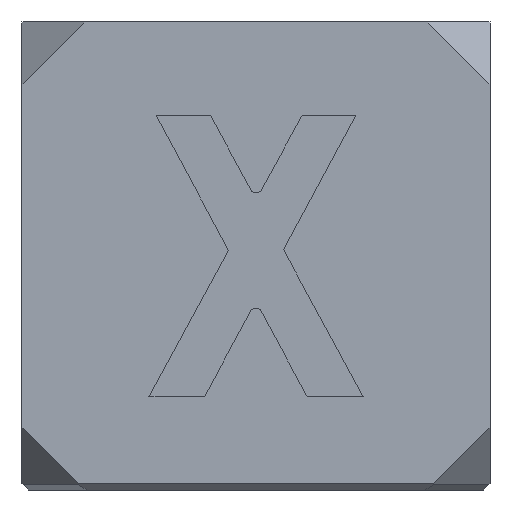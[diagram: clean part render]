
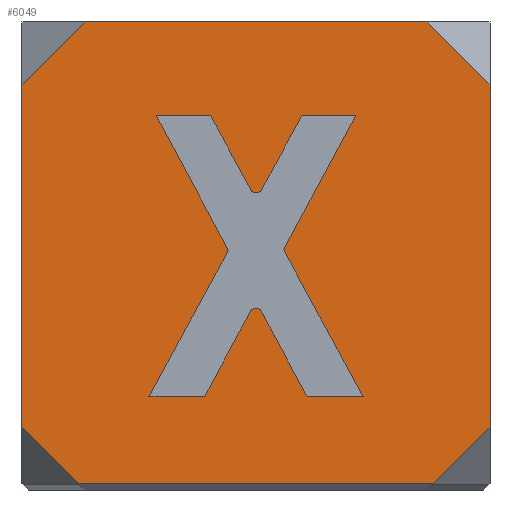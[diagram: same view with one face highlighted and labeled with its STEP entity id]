
A CAD part, front view. The second image highlights one B-rep face of the part: STEP entity #6049.
In plain terms, the highlighted planar face has unit normal (0, -1, 0).
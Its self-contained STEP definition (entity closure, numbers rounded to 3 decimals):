
#218=FACE_BOUND('',#1060,.T.);
#376=PLANE('',#6274);
#705=FACE_OUTER_BOUND('',#1059,.T.);
#1059=EDGE_LOOP('',(#5559,#5560,#5561,#5562,#5563,#5564,#5565,#5566));
#1060=EDGE_LOOP('',(#5567,#5568,#5569,#5570,#5571,#5572,#5573,#5574,#5575,
#5576,#5577,#5578,#5579,#5580));
#1123=CIRCLE('',#6271,0.4);
#1125=CIRCLE('',#6275,0.4);
#1739=LINE('',#12042,#2231);
#1814=LINE('',#13329,#2306);
#1850=LINE('',#13409,#2342);
#1880=LINE('',#13474,#2372);
#1883=LINE('',#13481,#2375);
#1884=LINE('',#13482,#2376);
#1885=LINE('',#13483,#2377);
#1886=LINE('',#13484,#2378);
#1887=LINE('',#13485,#2379);
#1888=LINE('',#13487,#2380);
#1889=LINE('',#13489,#2381);
#1890=LINE('',#13491,#2382);
#1891=LINE('',#13493,#2383);
#1892=LINE('',#13495,#2384);
#1893=LINE('',#13497,#2385);
#1894=LINE('',#13501,#2386);
#1895=LINE('',#13503,#2387);
#1896=LINE('',#13505,#2388);
#1897=LINE('',#13507,#2389);
#1898=LINE('',#13508,#2390);
#2231=VECTOR('',#6782,10.);
#2306=VECTOR('',#6941,10.);
#2342=VECTOR('',#7011,10.);
#2372=VECTOR('',#7069,10.);
#2375=VECTOR('',#7074,10.);
#2376=VECTOR('',#7075,10.);
#2377=VECTOR('',#7076,10.);
#2378=VECTOR('',#7077,10.);
#2379=VECTOR('',#7078,10.);
#2380=VECTOR('',#7079,10.);
#2381=VECTOR('',#7080,10.);
#2382=VECTOR('',#7081,10.);
#2383=VECTOR('',#7082,10.);
#2384=VECTOR('',#7083,10.);
#2385=VECTOR('',#7084,10.);
#2386=VECTOR('',#7087,10.);
#2387=VECTOR('',#7088,10.);
#2388=VECTOR('',#7089,10.);
#2389=VECTOR('',#7090,10.);
#2390=VECTOR('',#7091,10.);
#2863=VERTEX_POINT('',#12039);
#2864=VERTEX_POINT('',#12041);
#2948=VERTEX_POINT('',#13326);
#2949=VERTEX_POINT('',#13328);
#2975=VERTEX_POINT('',#13406);
#2976=VERTEX_POINT('',#13408);
#2993=VERTEX_POINT('',#13464);
#2994=VERTEX_POINT('',#13465);
#2997=VERTEX_POINT('',#13473);
#2999=VERTEX_POINT('',#13479);
#3000=VERTEX_POINT('',#13480);
#3001=VERTEX_POINT('',#13486);
#3002=VERTEX_POINT('',#13488);
#3003=VERTEX_POINT('',#13490);
#3004=VERTEX_POINT('',#13492);
#3005=VERTEX_POINT('',#13494);
#3006=VERTEX_POINT('',#13496);
#3007=VERTEX_POINT('',#13498);
#3008=VERTEX_POINT('',#13500);
#3009=VERTEX_POINT('',#13502);
#3010=VERTEX_POINT('',#13504);
#3011=VERTEX_POINT('',#13506);
#3661=EDGE_CURVE('',#2863,#2864,#1739,.T.);
#3794=EDGE_CURVE('',#2948,#2949,#1814,.T.);
#3834=EDGE_CURVE('',#2976,#2975,#1850,.T.);
#3862=EDGE_CURVE('',#2993,#2994,#1123,.T.);
#3866=EDGE_CURVE('',#2997,#2994,#1880,.T.);
#3869=EDGE_CURVE('',#2999,#3000,#1883,.T.);
#3870=EDGE_CURVE('',#2976,#2999,#1884,.T.);
#3871=EDGE_CURVE('',#2949,#2975,#1885,.T.);
#3872=EDGE_CURVE('',#2864,#2948,#1886,.T.);
#3873=EDGE_CURVE('',#3000,#2863,#1887,.T.);
#3874=EDGE_CURVE('',#2993,#3001,#1888,.T.);
#3875=EDGE_CURVE('',#3001,#3002,#1889,.T.);
#3876=EDGE_CURVE('',#3002,#3003,#1890,.T.);
#3877=EDGE_CURVE('',#3003,#3004,#1891,.T.);
#3878=EDGE_CURVE('',#3004,#3005,#1892,.T.);
#3879=EDGE_CURVE('',#3005,#3006,#1893,.T.);
#3880=EDGE_CURVE('',#3007,#3006,#1125,.T.);
#3881=EDGE_CURVE('',#3007,#3008,#1894,.T.);
#3882=EDGE_CURVE('',#3008,#3009,#1895,.T.);
#3883=EDGE_CURVE('',#3009,#3010,#1896,.T.);
#3884=EDGE_CURVE('',#3010,#3011,#1897,.T.);
#3885=EDGE_CURVE('',#3011,#2997,#1898,.T.);
#5559=ORIENTED_EDGE('',*,*,#3869,.F.);
#5560=ORIENTED_EDGE('',*,*,#3870,.F.);
#5561=ORIENTED_EDGE('',*,*,#3834,.T.);
#5562=ORIENTED_EDGE('',*,*,#3871,.F.);
#5563=ORIENTED_EDGE('',*,*,#3794,.F.);
#5564=ORIENTED_EDGE('',*,*,#3872,.F.);
#5565=ORIENTED_EDGE('',*,*,#3661,.F.);
#5566=ORIENTED_EDGE('',*,*,#3873,.F.);
#5567=ORIENTED_EDGE('',*,*,#3862,.F.);
#5568=ORIENTED_EDGE('',*,*,#3874,.T.);
#5569=ORIENTED_EDGE('',*,*,#3875,.T.);
#5570=ORIENTED_EDGE('',*,*,#3876,.T.);
#5571=ORIENTED_EDGE('',*,*,#3877,.T.);
#5572=ORIENTED_EDGE('',*,*,#3878,.T.);
#5573=ORIENTED_EDGE('',*,*,#3879,.T.);
#5574=ORIENTED_EDGE('',*,*,#3880,.F.);
#5575=ORIENTED_EDGE('',*,*,#3881,.T.);
#5576=ORIENTED_EDGE('',*,*,#3882,.T.);
#5577=ORIENTED_EDGE('',*,*,#3883,.T.);
#5578=ORIENTED_EDGE('',*,*,#3884,.T.);
#5579=ORIENTED_EDGE('',*,*,#3885,.T.);
#5580=ORIENTED_EDGE('',*,*,#3866,.T.);
#6049=ADVANCED_FACE('',(#705,#218),#376,.T.);
#6271=AXIS2_PLACEMENT_3D('',#13466,#7061,#7062);
#6274=AXIS2_PLACEMENT_3D('',#13478,#7072,#7073);
#6275=AXIS2_PLACEMENT_3D('',#13499,#7085,#7086);
#6782=DIRECTION('',(0.,0.,1.));
#6941=DIRECTION('',(1.,0.,0.));
#7011=DIRECTION('',(0.,0.,1.));
#7061=DIRECTION('center_axis',(0.,1.,0.));
#7062=DIRECTION('ref_axis',(-0.001,0.,-1.));
#7069=DIRECTION('',(0.477,0.,-0.879));
#7072=DIRECTION('center_axis',(0.,-1.,0.));
#7073=DIRECTION('ref_axis',(1.,0.,0.));
#7074=DIRECTION('',(-1.,0.,0.));
#7075=DIRECTION('',(-0.707,0.,-0.707));
#7076=DIRECTION('',(0.707,0.,-0.707));
#7077=DIRECTION('',(0.707,0.,0.707));
#7078=DIRECTION('',(-0.707,0.,0.707));
#7079=DIRECTION('',(0.479,0.,0.878));
#7080=DIRECTION('',(1.,0.,0.));
#7081=DIRECTION('',(-0.474,0.,-0.881));
#7082=DIRECTION('',(0.477,0.,-0.879));
#7083=DIRECTION('',(-1.,0.,0.));
#7084=DIRECTION('',(-0.473,0.,0.881));
#7085=DIRECTION('center_axis',(0.,1.,0.));
#7086=DIRECTION('ref_axis',(0.,0.,1.));
#7087=DIRECTION('',(-0.474,0.,-0.881));
#7088=DIRECTION('',(-1.,0.,0.));
#7089=DIRECTION('',(0.478,0.,0.878));
#7090=DIRECTION('',(-0.473,0.,0.881));
#7091=DIRECTION('',(1.,0.,0.));
#12039=CARTESIAN_POINT('',(-15.,-15.,4.019));
#12041=CARTESIAN_POINT('',(-15.,-15.,25.981));
#12042=CARTESIAN_POINT('',(-15.,-15.,0.));
#13326=CARTESIAN_POINT('',(-10.981,-15.,30.));
#13328=CARTESIAN_POINT('',(10.981,-15.,30.));
#13329=CARTESIAN_POINT('',(15.,-15.,30.));
#13406=CARTESIAN_POINT('',(15.,-15.,25.981));
#13408=CARTESIAN_POINT('',(15.,-15.,4.019));
#13409=CARTESIAN_POINT('',(15.,-15.,0.));
#13464=CARTESIAN_POINT('',(0.362,-15.,19.26));
#13465=CARTESIAN_POINT('',(-0.34,-15.,19.261));
#13466=CARTESIAN_POINT('Origin',(0.011,-15.,19.452));
#13473=CARTESIAN_POINT('',(-2.915,-15.,24.));
#13474=CARTESIAN_POINT('',(0.742,-15.,17.269));
#13478=CARTESIAN_POINT('Origin',(-15.,-15.,0.));
#13479=CARTESIAN_POINT('',(11.381,-15.,0.4));
#13480=CARTESIAN_POINT('',(-11.381,-15.,0.4));
#13481=CARTESIAN_POINT('',(-7.5,-15.,0.4));
#13482=CARTESIAN_POINT('',(5.49,-15.,-5.49));
#13483=CARTESIAN_POINT('',(12.99,-15.,27.99));
#13484=CARTESIAN_POINT('',(-20.49,-15.,20.49));
#13485=CARTESIAN_POINT('',(-12.99,-15.,2.01));
#13486=CARTESIAN_POINT('',(2.95,-15.,24.));
#13487=CARTESIAN_POINT('',(-5.627,-15.,8.288));
#13488=CARTESIAN_POINT('',(6.397,-15.,24.));
#13489=CARTESIAN_POINT('',(-6.025,-15.,24.));
#13490=CARTESIAN_POINT('',(1.763,-15.,15.389));
#13491=CARTESIAN_POINT('',(-1.014,-15.,10.23));
#13492=CARTESIAN_POINT('',(6.864,-15.,6.));
#13493=CARTESIAN_POINT('',(3.081,-15.,12.964));
#13494=CARTESIAN_POINT('',(3.269,-15.,6.));
#13495=CARTESIAN_POINT('',(-4.068,-15.,6.));
#13496=CARTESIAN_POINT('',(0.345,-15.,11.445));
#13497=CARTESIAN_POINT('',(2.475,-15.,7.479));
#13498=CARTESIAN_POINT('',(-0.36,-15.,11.446));
#13499=CARTESIAN_POINT('Origin',(-0.007,-15.,
11.256));
#13500=CARTESIAN_POINT('',(-3.291,-15.,6.));
#13501=CARTESIAN_POINT('',(-4.216,-15.,4.281));
#13502=CARTESIAN_POINT('',(-6.864,-15.,6.));
#13503=CARTESIAN_POINT('',(-9.145,-15.,6.));
#13504=CARTESIAN_POINT('',(-1.762,-15.,15.369));
#13505=CARTESIAN_POINT('',(-9.054,-15.,1.977));
#13506=CARTESIAN_POINT('',(-6.397,-15.,24.));
#13507=CARTESIAN_POINT('',(-0.04,-15.,12.163));
#13508=CARTESIAN_POINT('',(-10.698,-15.,24.));
